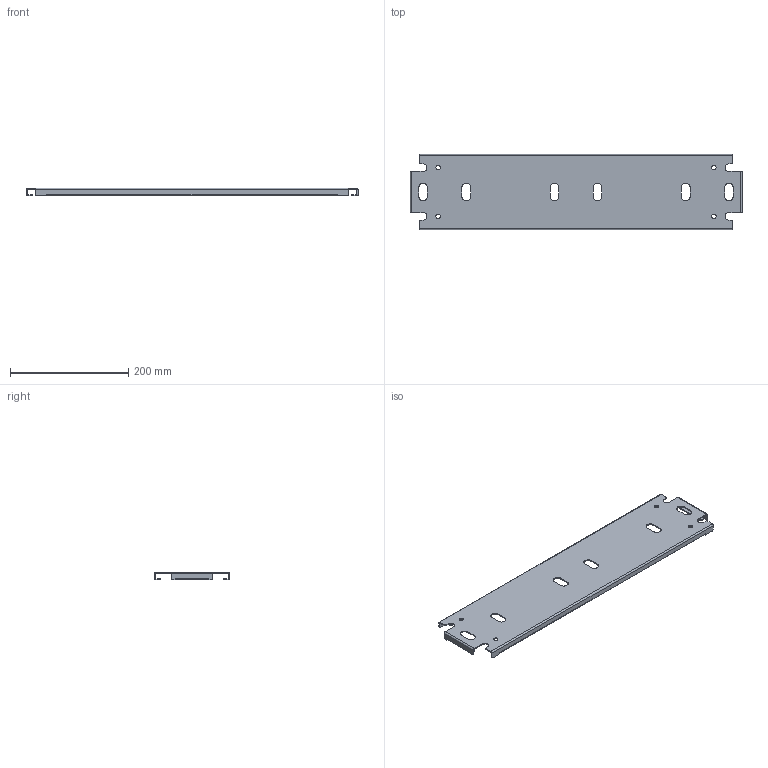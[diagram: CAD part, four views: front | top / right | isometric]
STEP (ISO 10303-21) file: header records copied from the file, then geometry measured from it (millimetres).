
FILE_DESCRIPTION(/* description */ ('1412BTCU 22.125" x 56" Inner Panel'),/* implementation_level */ '2;1');
FILE_NAME(/* name */ 'C:\Vault_Workspace\Inventor_Dwg\BoxCad\Result\1412BTCU072503DT\e-mail\3D\1412BTCU072503DTIP1.stp',/* time_stamp */ '2022-10-24T15:19:06-04:00',/* author */ ('BoxCad'),/* organization */ (''),/* preprocessor_version */ 'ST-DEVELOPER v18.1',/* originating_system */ 'Autodesk Inventor 2020',/* authorisation */ '');
FILE_SCHEMA (('AUTOMOTIVE_DESIGN { 1 0 10303 214 3 1 1 }'));
Length unit declared in the file: inch
Products named in the file (2): 1412BTCU072503DTIP1; 1412BTCU072503DTIP1-P
Assembly tree (1 placements, depth 2):
  1412BTCU072503DTIP1
    1412BTCU072503DTIP1-P
Bounding box: 561.98 x 127 x 13 mm (x, y, z)
Volume: 152182.1 mm3; surface area: 179963.7 mm2
Topology: 1 solids, 1 shells, 134 faces, 396 edges, 264 vertices
Faces by surface type: plane 78, cylinder 56
Full cylindrical faces by diameter (mm): 7.366 x4
Entity records: 4601 total; most frequent: CARTESIAN_POINT 797, ORIENTED_EDGE 792, DIRECTION 782, EDGE_CURVE 396, LINE 284, VECTOR 284, VERTEX_POINT 264, AXIS2_PLACEMENT_3D 249
